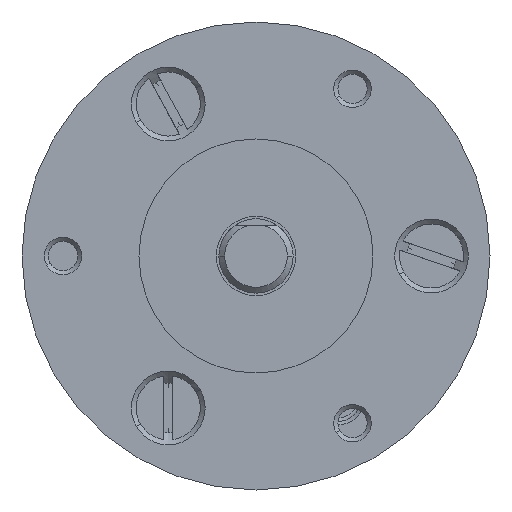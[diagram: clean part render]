
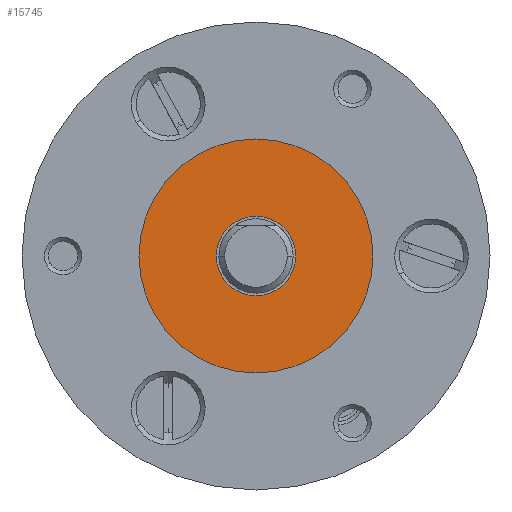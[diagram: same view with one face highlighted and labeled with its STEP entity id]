
A CAD part, left-side view. The second image highlights one B-rep face of the part: STEP entity #15745.
In plain terms, the highlighted planar face has unit normal (-1, 0, 0).
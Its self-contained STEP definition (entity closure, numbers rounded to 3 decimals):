
#15696 = VERTEX_POINT ( 'NONE', #22722 ) ;
#15698 = EDGE_CURVE ( 'NONE', #15696, #15699, #22721, .T. ) ;
#15699 = VERTEX_POINT ( 'NONE', #22716 ) ;
#15713 = VERTEX_POINT ( 'NONE', #22733 ) ;
#15715 = EDGE_CURVE ( 'NONE', #15716, #15713, #22732, .T. ) ;
#15716 = VERTEX_POINT ( 'NONE', #22727 ) ;
#15744 = EDGE_CURVE ( 'NONE', #15699, #15696, #22796, .T. ) ;
#15745 = ADVANCED_FACE ( 'NONE', ( #22797, #22846 ), #22831, .F. ) ;
#15746 = EDGE_LOOP ( 'NONE', ( #15747, #15748 ) ) ;
#15747 = ORIENTED_EDGE ( 'NONE', *, *, #15744, .F. ) ;
#15748 = ORIENTED_EDGE ( 'NONE', *, *, #15698, .F. ) ;
#15749 = EDGE_LOOP ( 'NONE', ( #15750, #15751 ) ) ;
#15750 = ORIENTED_EDGE ( 'NONE', *, *, #15715, .T. ) ;
#15751 = ORIENTED_EDGE ( 'NONE', *, *, #15752, .T. ) ;
#15752 = EDGE_CURVE ( 'NONE', #15713, #15716, #22824, .T. ) ;
#22716 = CARTESIAN_POINT ( 'NONE',  ( -55.711, 2.17, 1.7 ) ) ;
#22717 = DIRECTION ( 'NONE',  ( 0., -0.866, 0.5 ) ) ;
#22718 = DIRECTION ( 'NONE',  ( -1., 0., 0. ) ) ;
#22719 = CARTESIAN_POINT ( 'NONE',  ( -55.711, 5.115, 0. ) ) ;
#22720 = AXIS2_PLACEMENT_3D ( 'NONE', #22719, #22718, #22717 ) ;
#22721 = CIRCLE ( 'NONE', #22720, 3.4 ) ;
#22722 = CARTESIAN_POINT ( 'NONE',  ( -55.711, 8.059, -1.7 ) ) ;
#22727 = CARTESIAN_POINT ( 'NONE',  ( -55.711, -3.545, 5. ) ) ;
#22728 = DIRECTION ( 'NONE',  ( 0., -0.866, 0.5 ) ) ;
#22729 = DIRECTION ( 'NONE',  ( -1., 0., 0. ) ) ;
#22730 = CARTESIAN_POINT ( 'NONE',  ( -55.711, 5.115, 0. ) ) ;
#22731 = AXIS2_PLACEMENT_3D ( 'NONE', #22730, #22729, #22728 ) ;
#22732 = CIRCLE ( 'NONE', #22731, 10. ) ;
#22733 = CARTESIAN_POINT ( 'NONE',  ( -55.711, 13.775, -5. ) ) ;
#22792 = DIRECTION ( 'NONE',  ( 0., -0.866, 0.5 ) ) ;
#22793 = DIRECTION ( 'NONE',  ( -1., 0., 0. ) ) ;
#22794 = CARTESIAN_POINT ( 'NONE',  ( -55.711, 5.115, 0. ) ) ;
#22795 = AXIS2_PLACEMENT_3D ( 'NONE', #22794, #22793, #22792 ) ;
#22796 = CIRCLE ( 'NONE', #22795, 3.4 ) ;
#22797 = FACE_BOUND ( 'NONE', #15746, .T. ) ;
#22821 = DIRECTION ( 'NONE',  ( 0., -0.866, 0.5 ) ) ;
#22822 = DIRECTION ( 'NONE',  ( -1., 0., 0. ) ) ;
#22823 = AXIS2_PLACEMENT_3D ( 'NONE', #22830, #22822, #22821 ) ;
#22824 = CIRCLE ( 'NONE', #22823, 10. ) ;
#22826 = DIRECTION ( 'NONE',  ( 0., 0.866, -0.5 ) ) ;
#22827 = DIRECTION ( 'NONE',  ( 1., 0., 0. ) ) ;
#22828 = CARTESIAN_POINT ( 'NONE',  ( -55.711, 10.115, 8.66 ) ) ;
#22829 = AXIS2_PLACEMENT_3D ( 'NONE', #22828, #22827, #22826 ) ;
#22830 = CARTESIAN_POINT ( 'NONE',  ( -55.711, 5.115, 0. ) ) ;
#22831 = PLANE ( 'NONE',  #22829 ) ;
#22846 = FACE_OUTER_BOUND ( 'NONE', #15749, .T. ) ;
